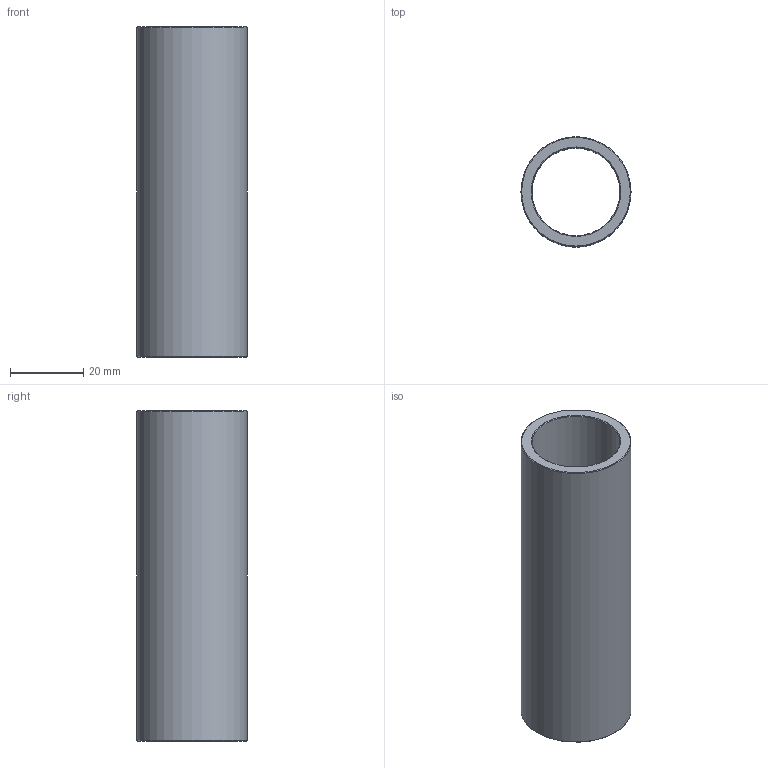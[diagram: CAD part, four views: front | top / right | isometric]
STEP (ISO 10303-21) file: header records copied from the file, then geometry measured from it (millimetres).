
FILE_DESCRIPTION(('STEP AP203'),'1');
FILE_NAME('C:/Users/Rodrigo/Desktop/GA3.024.090-1.step','2016-11-07T14:08:16',(' '),(' '),'Spatial InterOp 3D',' ',' ');
FILE_SCHEMA(('CONFIG_CONTROL_DESIGN'));
Length unit declared in the file: millimetre
Products named in the file (1): 1
Bounding box: 30 x 30 x 90 mm (x, y, z)
Volume: 22895.4 mm3; surface area: 15737.3 mm2
Topology: 1 solids, 1 shells, 8 faces, 14 edges, 8 vertices
Faces by surface type: cone 4, cylinder 2, plane 2
Full cylindrical faces by diameter (mm): 24 x1, 30 x1
Entity records: 212 total; most frequent: DIRECTION 34, CARTESIAN_POINT 25, AXIS2_PLACEMENT_3D 17, EDGE_LOOP 16, ORIENTED_EDGE 16, FACE_OUTER_BOUND 10, ADVANCED_FACE 8, EDGE_CURVE 8
